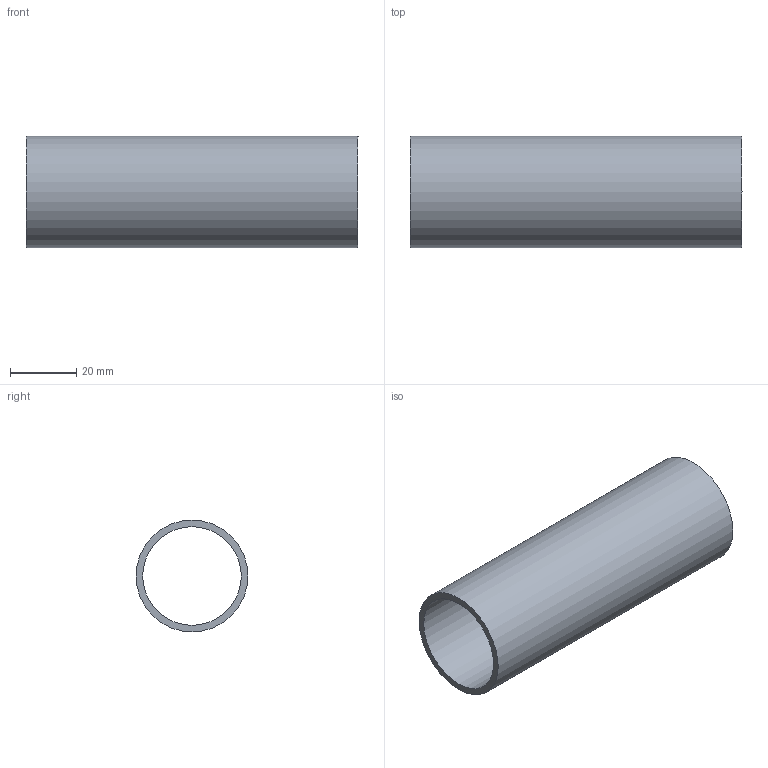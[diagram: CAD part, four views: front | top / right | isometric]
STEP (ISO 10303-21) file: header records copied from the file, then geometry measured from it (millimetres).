
FILE_DESCRIPTION(/* description */ (''),/* implementation_level */ '2;1');
FILE_NAME(/* name */ 'Pos112-Constructie buis 33.7x2-RVS 304-6st',/* time_stamp */ '2024-08-06T13:37:44+02:00',/* author */ (''),/* organization */ (''),/* preprocessor_version */ 'ST-DEVELOPER v16.5',/* originating_system */ 'HiCAD 2024 2901.2 Build 361',/* authorisation */ '');
FILE_SCHEMA (('AUTOMOTIVE_DESIGN { 1 0 10303 214 1 1 1 1 }'));
Length unit declared in the file: millimetre
Products named in the file (1): Pos112-Constructie buis 33.7x2-RVS 304-6st
Bounding box: 100 x 33.7 x 33.7 mm (x, y, z)
Volume: 19917.7 mm3; surface area: 20316.1 mm2
Topology: 1 solids, 1 shells, 4 faces, 6 edges, 4 vertices
Faces by surface type: cylinder 2, plane 2
Full cylindrical faces by diameter (mm): 29.7 x1, 33.7 x1
Entity records: 146 total; most frequent: DIRECTION 16, CARTESIAN_POINT 12, PRESENTATION_STYLE_ASSIGNMENT 9, COLOUR_RGB 9, DRAUGHTING_PRE_DEFINED_CURVE_FONT 8, CURVE_STYLE 8, OVER_RIDING_STYLED_ITEM 8, ORIENTED_EDGE 8
